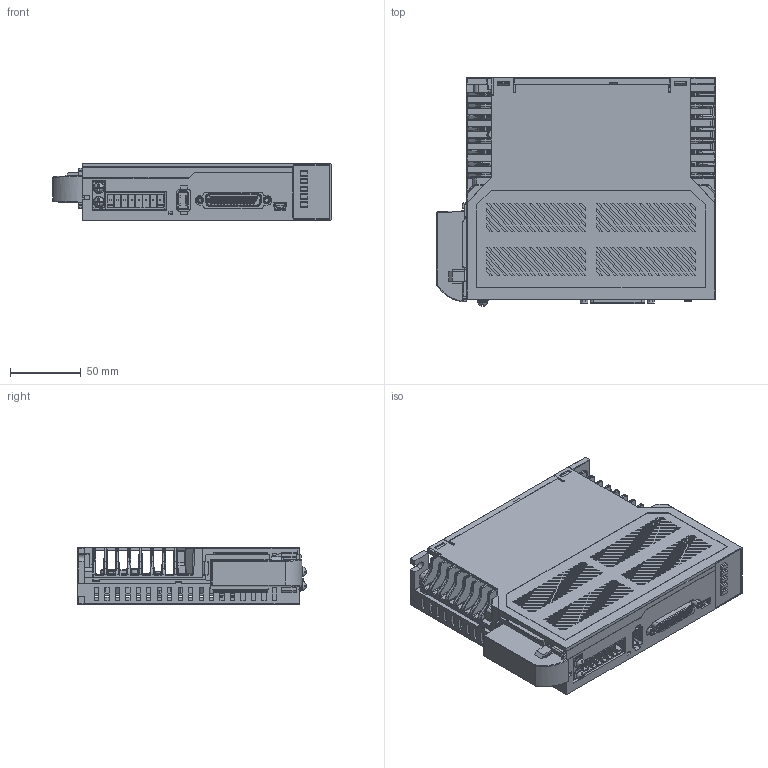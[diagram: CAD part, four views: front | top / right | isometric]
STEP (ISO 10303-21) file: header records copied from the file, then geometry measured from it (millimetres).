
FILE_DESCRIPTION((''),'2;1');
FILE_NAME('RT400-ALL_ASM','2020-12-30T',('Administrator'),(''),'PRO/ENGINEER BY PARAMETRIC TECHNOLOGY CORPORATION, 2011310','PRO/ENGINEER BY PARAMETRIC TECHNOLOGY CORPORATION, 2011310','');
FILE_SCHEMA(('CONFIG_CONTROL_DESIGN','SHAPE_APPEARANCE_LAYERS_GROUPS'));
Products named in the file (12): RT400-BOX-1; RT400-BOX-2; RT400-PCB; TRM_SRF-82; TRM_SRF-55; RT400-PCB-00_ASM; BUTTON; CLEAR-PARTS; RXLB-1A-75W-50R; MR-J3BAT; RT400-DECORATIVE-PLATE; RT400-ALL_ASM
Assembly tree (11 placements, depth 3):
  RT400-ALL_ASM
    RT400-BOX-1
    RT400-BOX-2
    RT400-PCB-00_ASM
      RT400-PCB
      TRM_SRF-82
      TRM_SRF-55
    BUTTON
    CLEAR-PARTS
    RXLB-1A-75W-50R
    MR-J3BAT
    RT400-DECORATIVE-PLATE
Bounding box: 196 x 160.99 x 40 mm (x, y, z)
Volume: 430789 mm3; surface area: 323923.4 mm2
Topology: 10 solids, 11 shells, 5977 faces, 15592 edges, 10012 vertices
Faces by surface type: plane 4206, cylinder 1097, bspline 272, cone 139, sphere 98, torus 84, extrusion 81
Entity records: 253676 total; most frequent: CARTESIAN_POINT 47083, ORIENTED_EDGE 31156, DIRECTION 28220, PRESENTATION_STYLE_ASSIGNMENT 17497, STYLED_ITEM 15591, CURVE_STYLE 15581, EDGE_CURVE 15578, VECTOR 12502
